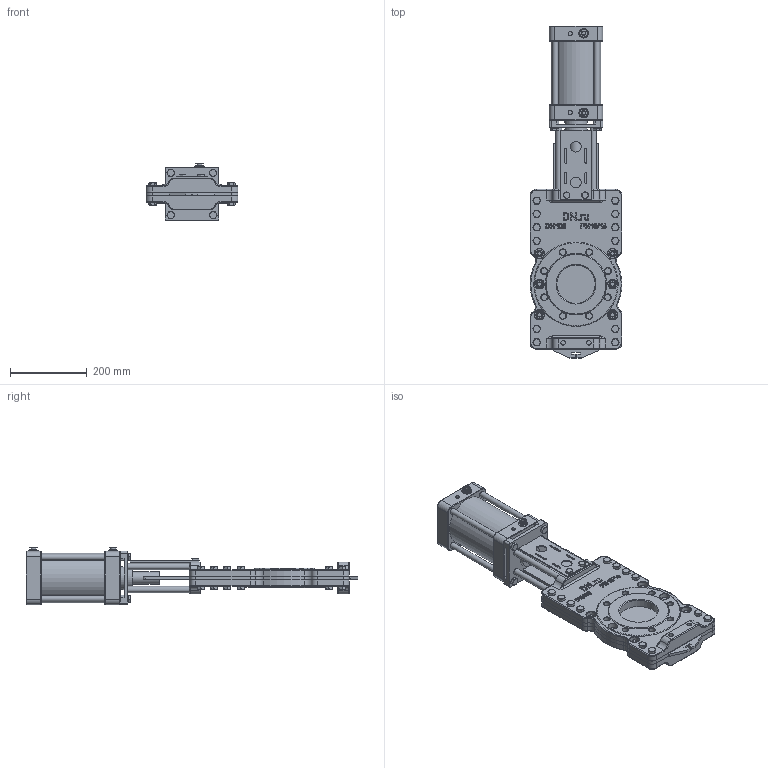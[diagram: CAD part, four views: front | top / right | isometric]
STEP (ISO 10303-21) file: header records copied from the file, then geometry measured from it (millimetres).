
FILE_DESCRIPTION(('STEP AP242'), '1');
FILE_NAME('GVKRT3431N-2W-Fb-2P Çàäâèæêà øèáåðíàÿ ñ âûäâèæíûì øòîêîì è ñêâîçíûì íîæîì DN.ru Äó100 Ðó10-16', '2026-05-27T18:00:49', ('DN.ru'), (''), 'C3D Converter', 'C3D Toolkit', '');
FILE_SCHEMA(('AP242_MANAGED_MODEL_BASED_3D_ENGINEERING_MIM_LF { 1 0 10303 442 1 1 4 }'));
Length unit declared in the file: millimetre
Products named in the file (1): GVKRT3431N-2W-Fb-2P
Bounding box: 240 x 866.75 x 150.5 mm (x, y, z)
Volume: 8755759.9 mm3; surface area: 1040002.2 mm2
Topology: 1 solids, 9 shells, 1837 faces, 4252 edges, 2616 vertices
Faces by surface type: plane 911, cylinder 386, cone 286, extrusion 158, torus 92, bspline 4
Full cylindrical faces by diameter (mm): 9.525 x2, 10 x2, 10.668 x2, 12 x50, 13 x4, 14 x54, 14.593 x2, 15 x8, 16 x38, 18 x40, 20 x2, 25 x26, 27.951 x2, 32 x1, 60 x2, 100 x2, 115.43 x2, 130 x1
Entity records: 76473 total; most frequent: CARTESIAN_POINT 21324, DIRECTION 8128, ORIENTED_EDGE 7914, EDGE_CURVE 3957, AXIS2_PLACEMENT_3D 3169, VERTEX_POINT 2615, EDGE_LOOP 2470, FACE_BOUND 2013
